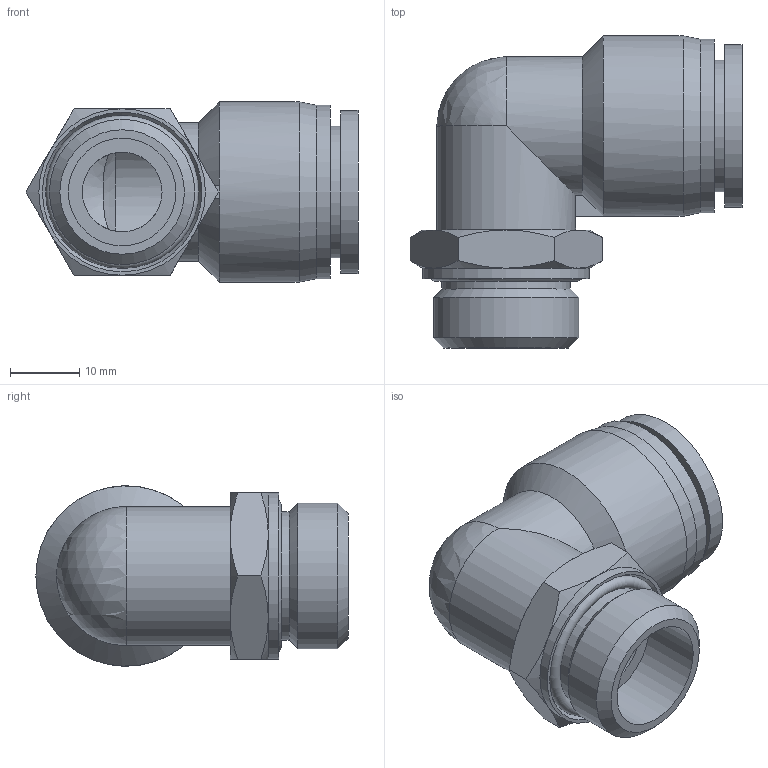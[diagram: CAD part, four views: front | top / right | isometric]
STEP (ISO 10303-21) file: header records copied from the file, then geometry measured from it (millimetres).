
FILE_DESCRIPTION(/* description */ (''),/* implementation_level */ '2;1');
FILE_NAME(/* name */ 'S:\_Tecnico\ArchivioUT\_Disegni3D ingombri\DISEGNI 3D per ingombri\RP\RP 72\RP721216.stp',/* time_stamp */ '2020-10-08T17:10:37+02:00',/* author */ ('UfficioTecnico'),/* organization */ (''),/* preprocessor_version */ 'ST-DEVELOPER v18',/* originating_system */ 'Autodesk Inventor 2020',/* authorisation */ '');
FILE_SCHEMA (('AUTOMOTIVE_DESIGN { 1 0 10303 214 3 1 1 }'));
Length unit declared in the file: millimetre
Products named in the file (1): RP721216
Bounding box: 47.86 x 45 x 26 mm (x, y, z)
Volume: 14757.7 mm3; surface area: 9283.6 mm2
Topology: 2 solids, 2 shells, 55 faces, 137 edges, 89 vertices
Faces by surface type: plane 20, cone 19, cylinder 13, torus 2, sphere 1
Full cylindrical faces by diameter (mm): 11.5 x1, 15.5 x1, 16 x1, 18.5 x2, 19 x1, 20 x1, 20.955 x1, 23.5 x1, 24 x1, 25 x1, 26 x1
Entity records: 1728 total; most frequent: CARTESIAN_POINT 391, DIRECTION 288, ORIENTED_EDGE 270, EDGE_CURVE 135, AXIS2_PLACEMENT_3D 128, VERTEX_POINT 89, CIRCLE 70, EDGE_LOOP 64
